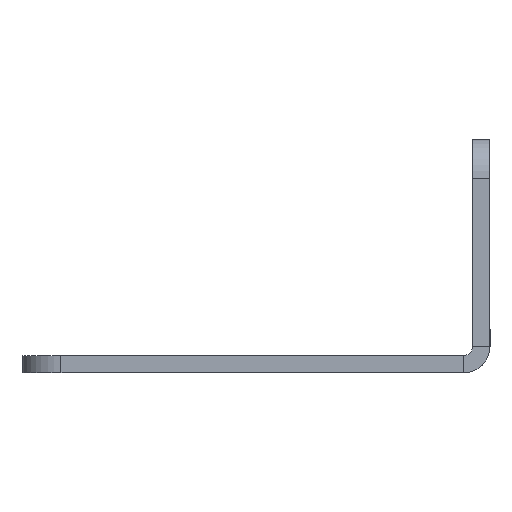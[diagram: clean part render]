
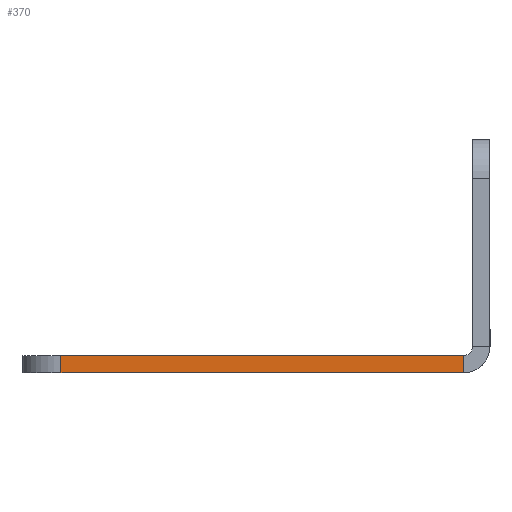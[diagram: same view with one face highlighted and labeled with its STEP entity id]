
A CAD part, left-side view. The second image highlights one B-rep face of the part: STEP entity #370.
In plain terms, the highlighted planar face has unit normal (-1, 0, 0).
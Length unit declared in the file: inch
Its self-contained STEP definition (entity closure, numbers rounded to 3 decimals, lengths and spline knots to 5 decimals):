
#273=CARTESIAN_POINT('',(-23.75,-0.664,0.));
#274=VERTEX_POINT('',#273);
#281=CARTESIAN_POINT('',(-23.75,0.625,0.0));
#282=VERTEX_POINT('',#281);
#283=CARTESIAN_POINT('',(-23.75,-0.664,0.0));
#284=DIRECTION('',(0.0,1.0,0.0));
#285=VECTOR('',#284,1.289);
#286=LINE('',#283,#285);
#287=EDGE_CURVE('',#274,#282,#286,.T.);
#327=CARTESIAN_POINT('',(-23.75,0.625,0.055));
#328=VERTEX_POINT('',#327);
#338=CARTESIAN_POINT('',(-23.75,0.625,0.0));
#339=DIRECTION('',(0.0,0.0,1.0));
#340=VECTOR('',#339,0.055);
#341=LINE('',#338,#340);
#342=EDGE_CURVE('',#282,#328,#341,.T.);
#347=CARTESIAN_POINT('',(-23.75,-0.75,0.0));
#348=DIRECTION('',(-1.0,0.0,0.0));
#349=DIRECTION('',(0.0,0.0,1.0));
#350=AXIS2_PLACEMENT_3D('',#347,#348,#349);
#351=PLANE('',#350);
#352=ORIENTED_EDGE('',*,*,#342,.F.);
#353=ORIENTED_EDGE('',*,*,#287,.F.);
#354=CARTESIAN_POINT('',(-23.75,-0.664,0.055));
#355=VERTEX_POINT('',#354);
#356=CARTESIAN_POINT('',(-23.75,-0.664,0.));
#357=DIRECTION('',(0.0,0.0,1.0));
#358=VECTOR('',#357,0.055);
#359=LINE('',#356,#358);
#360=EDGE_CURVE('',#274,#355,#359,.T.);
#361=ORIENTED_EDGE('',*,*,#360,.T.);
#362=CARTESIAN_POINT('',(-23.75,-0.664,0.055));
#363=DIRECTION('',(0.0,1.0,0.0));
#364=VECTOR('',#363,1.289);
#365=LINE('',#362,#364);
#366=EDGE_CURVE('',#355,#328,#365,.T.);
#367=ORIENTED_EDGE('',*,*,#366,.T.);
#368=EDGE_LOOP('',(#352,#353,#361,#367));
#369=FACE_OUTER_BOUND('',#368,.T.);
#370=ADVANCED_FACE('',(#369),#351,.T.);
